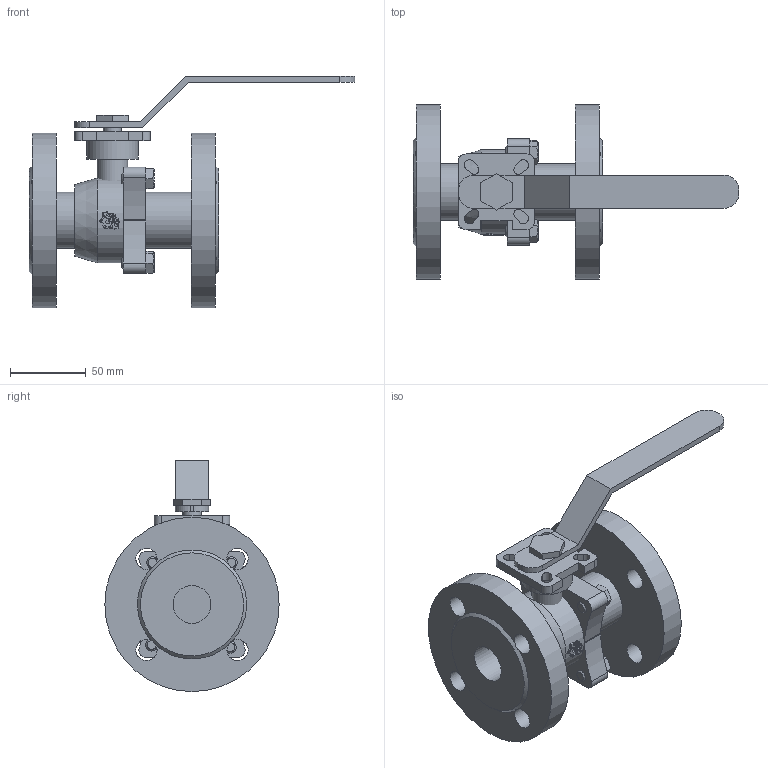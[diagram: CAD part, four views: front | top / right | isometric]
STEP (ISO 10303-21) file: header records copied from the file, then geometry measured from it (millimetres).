
FILE_DESCRIPTION(('STEP AP203'), '1');
FILE_NAME('3D_7528-025-40_1', '', ('UNSPECIFIED'), ('UNSPECIFIED'), 'C3D Converter', 'C3D Toolkit', '');
FILE_SCHEMA(('CONFIG_CONTROL_DESIGN'));
Length unit declared in the file: millimetre
Bounding box: 215 x 115 x 152.5 mm (x, y, z)
Volume: 570278.7 mm3; surface area: 116517.7 mm2
Topology: 22 solids, 22 shells, 988 faces, 2862 edges, 1918 vertices
Faces by surface type: plane 917, cylinder 56, cone 11, torus 4
Full cylindrical faces by diameter (mm): 8 x4, 12 x1, 14 x8, 20 x1, 25 x2, 34 x1, 37 x2, 56 x1, 115 x2
Entity records: 41614 total; most frequent: CARTESIAN_POINT 9717, ORIENTED_EDGE 5650, DIRECTION 4141, EDGE_CURVE 2825, VERTEX_POINT 1918, LINE 1821, VECTOR 1821, AXIS2_PLACEMENT_3D 1160
